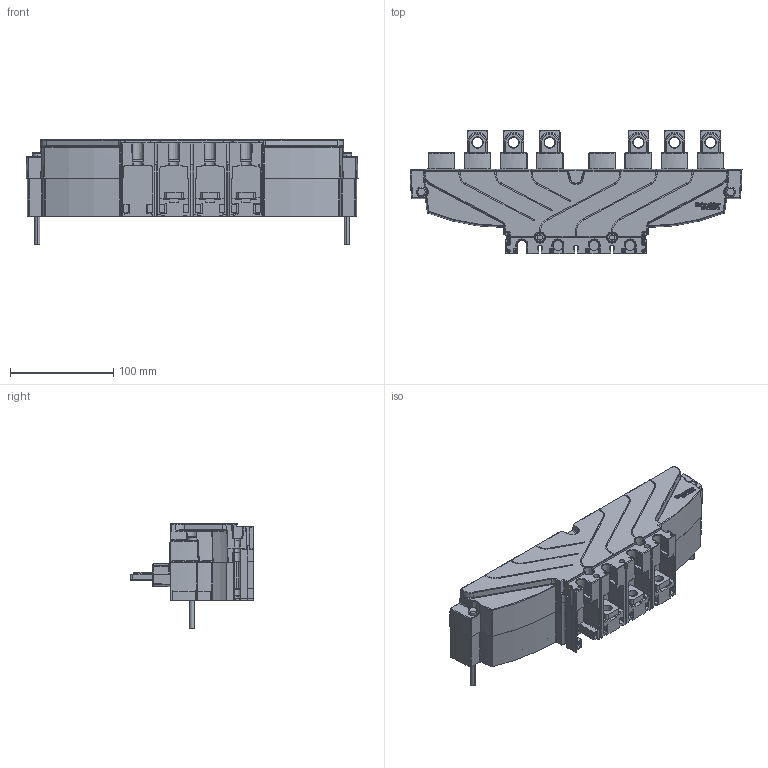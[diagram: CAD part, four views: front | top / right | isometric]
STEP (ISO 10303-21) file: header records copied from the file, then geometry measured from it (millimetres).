
FILE_DESCRIPTION((''),'2;1');
FILE_NAME('LV429358','2017-11-15T',('SESA468396'),('Schneider-Electric'),'PRO/ENGINEER BY PARAMETRIC TECHNOLOGY CORPORATION, 2015440','PRO/ENGINEER BY PARAMETRIC TECHNOLOGY CORPORATION, 2015440','');
FILE_SCHEMA(('CONFIG_CONTROL_DESIGN'));
Length unit declared in the file: millimetre
Products named in the file (1): LV429358
Bounding box: 322 x 120 x 101.25 mm (x, y, z)
Volume: 1041323.8 mm3; surface area: 231481.4 mm2
Topology: 1 solids, 10 shells, 3378 faces, 8583 edges, 5272 vertices
Faces by surface type: plane 1232, cylinder 855, bspline 580, torus 260, cone 182, extrusion 145, sphere 124
Entity records: 135218 total; most frequent: CARTESIAN_POINT 59687, ORIENTED_EDGE 17146, DIRECTION 13639, EDGE_CURVE 8573, VERTEX_POINT 5272, AXIS2_PLACEMENT_3D 4654, VECTOR 4331, LINE 4186
